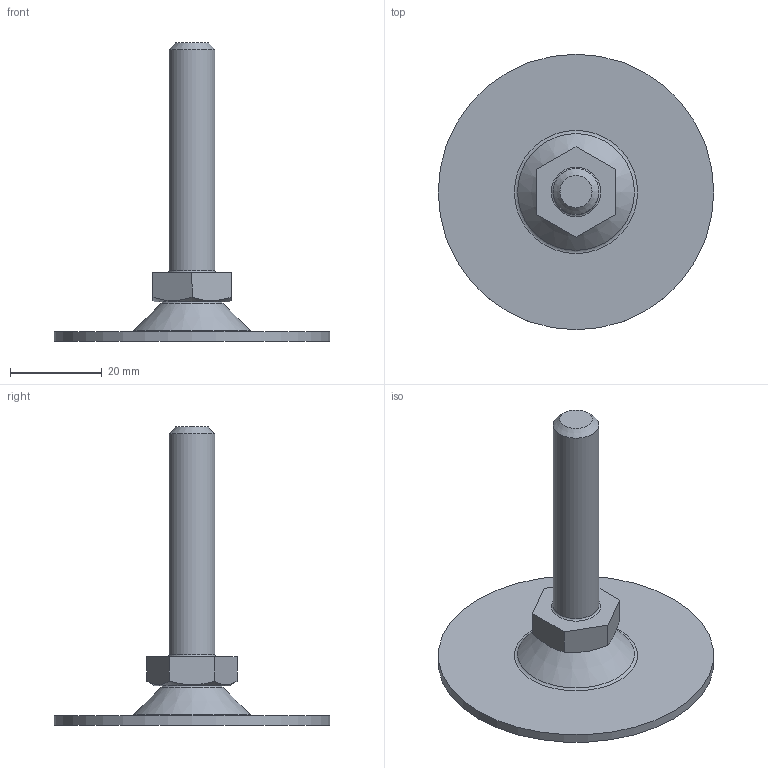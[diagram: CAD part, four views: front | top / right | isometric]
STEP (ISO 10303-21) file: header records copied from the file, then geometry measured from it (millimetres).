
FILE_DESCRIPTION(('STEP AP203'), '1');
FILE_NAME('A00050.1061016', '', ('UNSPECIFIED'), ('UNSPECIFIED'), 'C3D Converter', 'C3D Toolkit', '');
FILE_SCHEMA(('CONFIG_CONTROL_DESIGN'));
Length unit declared in the file: millimetre
Products named in the file (4): A00050.1061050; A00050.1160
Assembly tree (3 placements, depth 2):
  A00050.1061050
    A00050.1160
    (unnamed)
    (unnamed)
Bounding box: 60 x 60 x 64.93 mm (x, y, z)
Volume: 11421.9 mm3; surface area: 9157.7 mm2
Topology: 3 solids, 3 shells, 58 faces, 130 edges, 82 vertices
Faces by surface type: plane 28, torus 8, bspline 8, cone 7, cylinder 6, sphere 1
Full cylindrical faces by diameter (mm): 3.3 x1, 4 x1, 4.5 x1, 8 x1, 10 x1, 60 x1
Entity records: 2171 total; most frequent: CARTESIAN_POINT 784, DIRECTION 242, ORIENTED_EDGE 214, EDGE_CURVE 107, AXIS2_PLACEMENT_3D 95, EDGE_LOOP 86, VERTEX_POINT 81, ADVANCED_FACE 58
